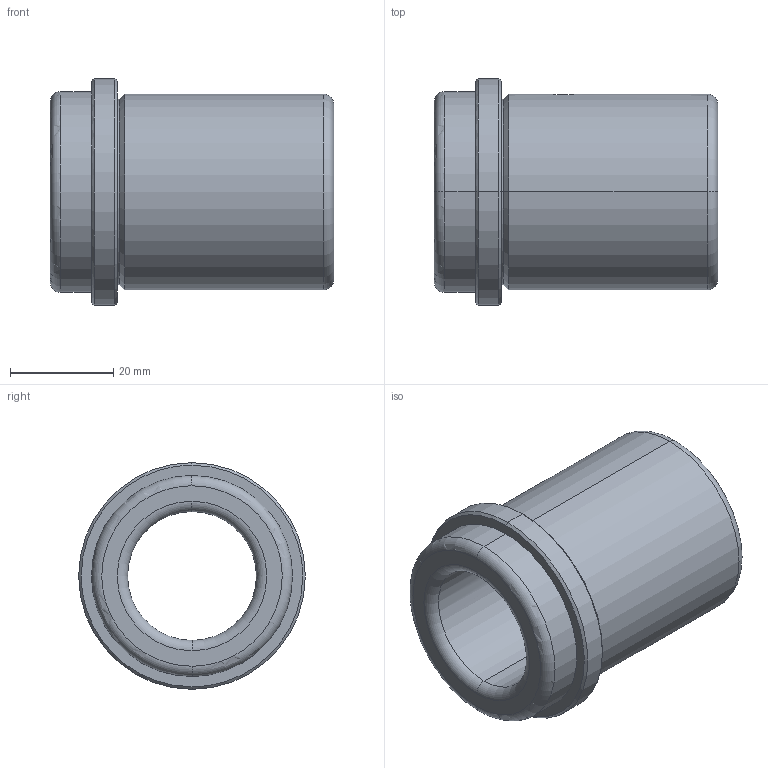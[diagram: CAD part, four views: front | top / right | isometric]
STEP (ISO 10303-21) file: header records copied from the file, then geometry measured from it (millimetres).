
FILE_DESCRIPTION(('CATIA V5 STEP Exchange'),'2;1');
FILE_NAME('C:\Users\Utente\Desktop\IO LAVORO\3D X SITO CF\X SITO\FAMO\FAMO-SF1-B25 x 55.stp','2021-01-06T17:12:46+00:00',('none'),('none'),'CATIA Version 5 Release 20 GA (IN-10)','CATIA V5 STEP AP203','none');
FILE_SCHEMA(('CONFIG_CONTROL_DESIGN'));
Length unit declared in the file: millimetre
Products named in the file (1): FAMO-SF1-B25 x 55
Bounding box: 55 x 44 x 44 mm (x, y, z)
Volume: 36954.3 mm3; surface area: 13027.2 mm2
Topology: 1 solids, 1 shells, 33 faces, 106 edges, 78 vertices
Faces by surface type: cylinder 12, torus 8, cone 8, plane 5
Entity records: 1438 total; most frequent: CARTESIAN_POINT 458, ORIENTED_EDGE 212, DIRECTION 158, AXIS2_PLACEMENT_3D 106, EDGE_CURVE 106, VERTEX_POINT 78, CIRCLE 72, EDGE_LOOP 40
